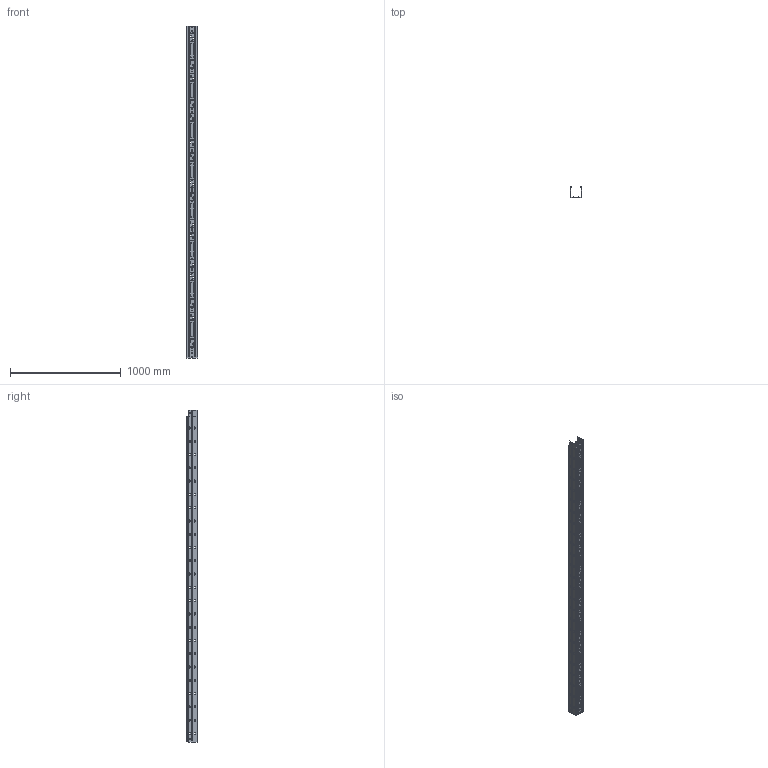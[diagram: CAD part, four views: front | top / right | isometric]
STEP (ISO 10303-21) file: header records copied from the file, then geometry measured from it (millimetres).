
FILE_DESCRIPTION (( 'STEP AP203' ), '1' );
FILE_NAME ('ERE 100x100 100x100.step', '2023-07-27T17:26:04', ( '' ), ( '' ), 'SwSTEP 2.0', 'SolidWorks 2022', '' );
FILE_SCHEMA (( 'CONFIG_CONTROL_DESIGN' ));
Products named in the file (1): ERE 100x100 100x100
Bounding box: 100 x 100.8 x 3000 mm (x, y, z)
Volume: 506193.9 mm3; surface area: 1839091.4 mm2
Topology: 1 solids, 1 shells, 10734 faces, 31668 edges, 21016 vertices
Faces by surface type: plane 10064, cylinder 566, torus 64, cone 36, bspline 4
Entity records: 351879 total; most frequent: CARTESIAN_POINT 63729, ORIENTED_EDGE 63336, DIRECTION 54268, EDGE_CURVE 31668, VECTOR 30358, LINE 30358, VERTEX_POINT 21016, AXIS2_PLACEMENT_3D 11955
